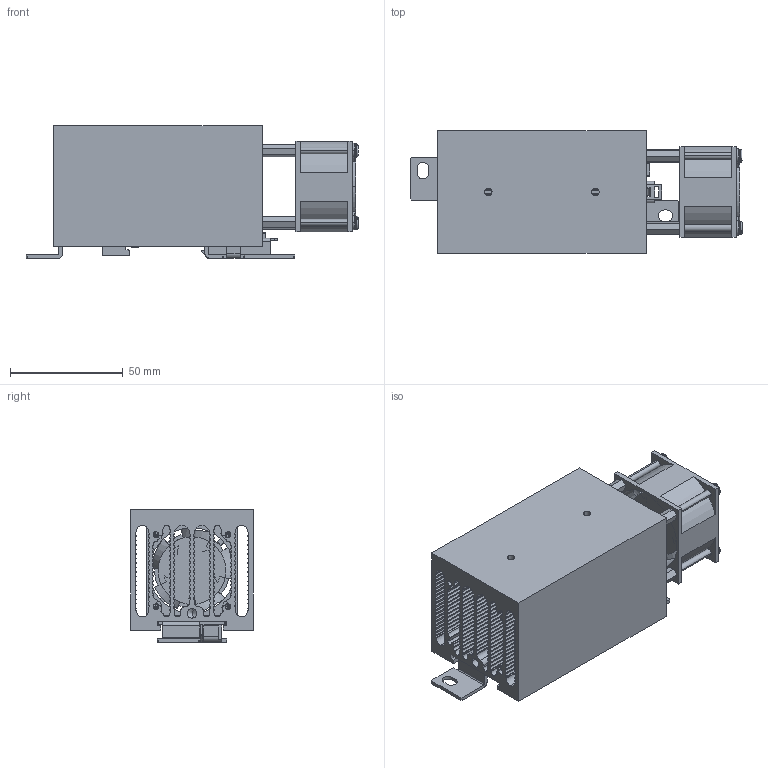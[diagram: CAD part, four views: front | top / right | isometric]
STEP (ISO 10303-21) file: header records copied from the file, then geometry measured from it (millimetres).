
FILE_DESCRIPTION (( 'STEP AP214' ), '1' );
FILE_NAME ('HS_006.STEP', '2021-10-11T09:06:24', ( '' ), ( '' ), 'SwSTEP 2.0', 'SolidWorks 2016', '' );
FILE_SCHEMA (( 'AUTOMOTIVE_DESIGN' ));
Length unit declared in the file: millimetre
Products named in the file (1): HS_006
Bounding box: 147.17 x 54.4 x 58.8 mm (x, y, z)
Surface area: 101924.5 mm2 (no closed solid volume)
Topology: 0 solids, 30 shells, 1209 faces, 3702 edges, 2474 vertices
Faces by surface type: cylinder 880, plane 276, bspline 51, cone 2
Entity records: 45523 total; most frequent: CARTESIAN_POINT 11821, DIRECTION 7482, ORIENTED_EDGE 6858, EDGE_CURVE 3673, AXIS2_PLACEMENT_3D 2903, VERTEX_POINT 2472, CIRCLE 1744, VECTOR 1676
